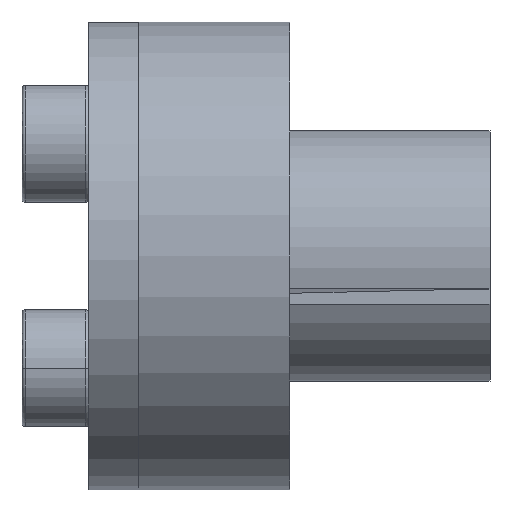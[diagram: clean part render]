
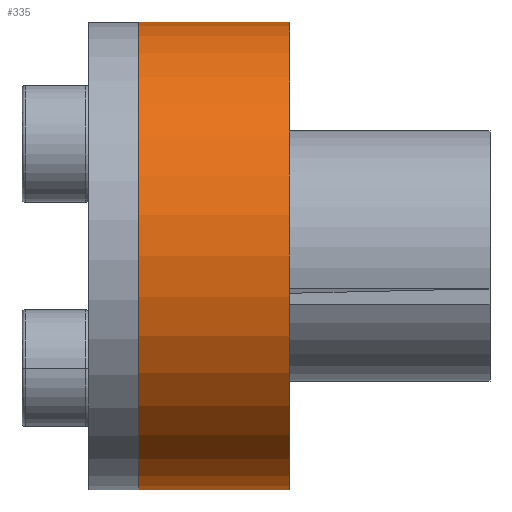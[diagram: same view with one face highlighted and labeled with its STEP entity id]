
A CAD part, front view. The second image highlights one B-rep face of the part: STEP entity #335.
In plain terms, the highlighted cylindrical face has radius 14 mm (diameter 28 mm), a partial arc.
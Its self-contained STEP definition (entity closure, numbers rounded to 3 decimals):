
#119 = LINE ( 'NONE', #3642, #2489 ) ;
#253 = ORIENTED_EDGE ( 'NONE', *, *, #1722, .T. ) ;
#300 = DIRECTION ( 'NONE',  ( 0., 0., 1. ) ) ;
#335 = ADVANCED_FACE ( 'NONE', ( #2124 ), #1204, .T. ) ;
#484 = CIRCLE ( 'NONE', #3529, 14. ) ;
#753 = CARTESIAN_POINT ( 'NONE',  ( -9.065, 0., 14. ) ) ;
#836 = VERTEX_POINT ( 'NONE', #3159 ) ;
#859 = CARTESIAN_POINT ( 'NONE',  ( -0.045, 0., -14. ) ) ;
#990 = AXIS2_PLACEMENT_3D ( 'NONE', #3516, #1672, #3833 ) ;
#1004 = AXIS2_PLACEMENT_3D ( 'NONE', #1052, #1603, #1295 ) ;
#1014 = VERTEX_POINT ( 'NONE', #753 ) ;
#1052 = CARTESIAN_POINT ( 'NONE',  ( -13.016, 0., 0. ) ) ;
#1111 = DIRECTION ( 'NONE',  ( -1., 0., 0. ) ) ;
#1136 = ORIENTED_EDGE ( 'NONE', *, *, #1459, .T. ) ;
#1178 = ORIENTED_EDGE ( 'NONE', *, *, #2917, .F. ) ;
#1204 = CYLINDRICAL_SURFACE ( 'NONE', #1004, 14. ) ;
#1295 = DIRECTION ( 'NONE',  ( 0., 0., 1. ) ) ;
#1363 = VECTOR ( 'NONE', #1111, 1000. ) ;
#1459 = EDGE_CURVE ( 'NONE', #836, #1014, #2172, .T. ) ;
#1502 = CARTESIAN_POINT ( 'NONE',  ( -9.065, 0., -14. ) ) ;
#1603 = DIRECTION ( 'NONE',  ( -1., 0., 0. ) ) ;
#1672 = DIRECTION ( 'NONE',  ( -1., 0., 0. ) ) ;
#1722 = EDGE_CURVE ( 'NONE', #3844, #836, #484, .T. ) ;
#1724 = CIRCLE ( 'NONE', #990, 14. ) ;
#1988 = CARTESIAN_POINT ( 'NONE',  ( -13.016, 0., 14. ) ) ;
#2091 = DIRECTION ( 'NONE',  ( -1., 0., 0. ) ) ;
#2098 = ORIENTED_EDGE ( 'NONE', *, *, #3118, .F. ) ;
#2124 = FACE_OUTER_BOUND ( 'NONE', #3838, .T. ) ;
#2163 = DIRECTION ( 'NONE',  ( -1., 0., 0. ) ) ;
#2172 = LINE ( 'NONE', #1988, #1363 ) ;
#2489 = VECTOR ( 'NONE', #2091, 1000. ) ;
#2917 = EDGE_CURVE ( 'NONE', #3926, #1014, #1724, .T. ) ;
#3118 = EDGE_CURVE ( 'NONE', #3844, #3926, #119, .T. ) ;
#3159 = CARTESIAN_POINT ( 'NONE',  ( -0.045, 0., 14. ) ) ;
#3516 = CARTESIAN_POINT ( 'NONE',  ( -9.065, 0., 0. ) ) ;
#3529 = AXIS2_PLACEMENT_3D ( 'NONE', #4016, #2163, #300 ) ;
#3642 = CARTESIAN_POINT ( 'NONE',  ( -13.016, 0., -14. ) ) ;
#3833 = DIRECTION ( 'NONE',  ( 0., 0., 1. ) ) ;
#3838 = EDGE_LOOP ( 'NONE', ( #2098, #253, #1136, #1178 ) ) ;
#3844 = VERTEX_POINT ( 'NONE', #859 ) ;
#3926 = VERTEX_POINT ( 'NONE', #1502 ) ;
#4016 = CARTESIAN_POINT ( 'NONE',  ( -0.045, 0., 0. ) ) ;
